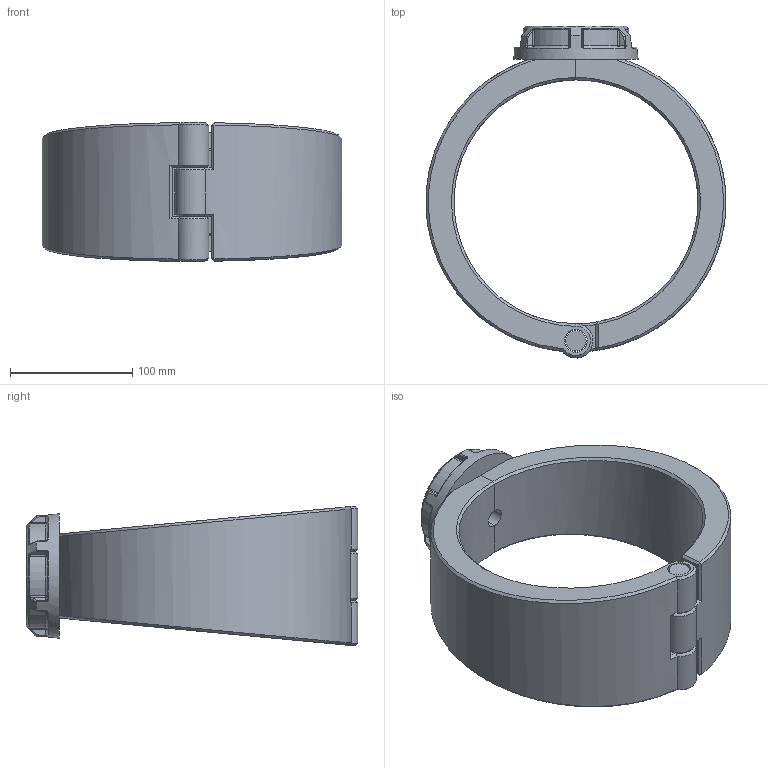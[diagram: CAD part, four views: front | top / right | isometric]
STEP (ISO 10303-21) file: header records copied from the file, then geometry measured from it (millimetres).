
FILE_DESCRIPTION(/* description */ ('Plassadle Threaded 200x1'''''),/* implementation_level */ '2;1');
FILE_NAME(/* name */ 'C:\Dropbox\KIMPROJECTS-Inventor 2019\99-16-3568-Processing\Mechanical Fittings\16300\stp\163000200010.stp',/* time_stamp */ '2024-08-28T10:31:59+02:00',/* author */ ('comp2'),/* organization */ (''),/* preprocessor_version */ 'ST-DEVELOPER v17.2',/* originating_system */ 'Autodesk Inventor 2019',/* authorisation */ '');
FILE_SCHEMA (('AUTOMOTIVE_DESIGN { 1 0 10303 214 3 1 1 }'));
Length unit declared in the file: millimetre
Products named in the file (1): 163000200010
Bounding box: 245.88 x 271.97 x 114.62 mm (x, y, z)
Volume: 1591855.5 mm3; surface area: 201649 mm2
Topology: 4 solids, 4 shells, 203 faces, 486 edges, 293 vertices
Faces by surface type: bspline 58, plane 53, cylinder 47, torus 18, cone 15, sphere 12
Full cylindrical faces by diameter (mm): 15.146 x1, 16.72 x1, 18.72 x3, 25.747 x1, 30.291 x1, 45.437 x1
Entity records: 8289 total; most frequent: CARTESIAN_POINT 3942, ORIENTED_EDGE 972, DIRECTION 781, EDGE_CURVE 486, AXIS2_PLACEMENT_3D 330, VERTEX_POINT 293, EDGE_LOOP 213, FACE_OUTER_BOUND 203
